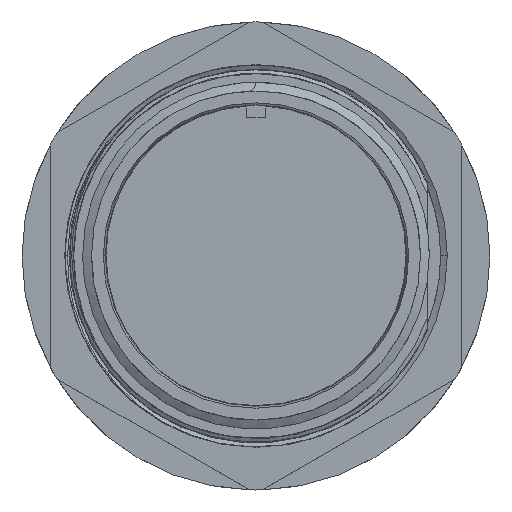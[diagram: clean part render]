
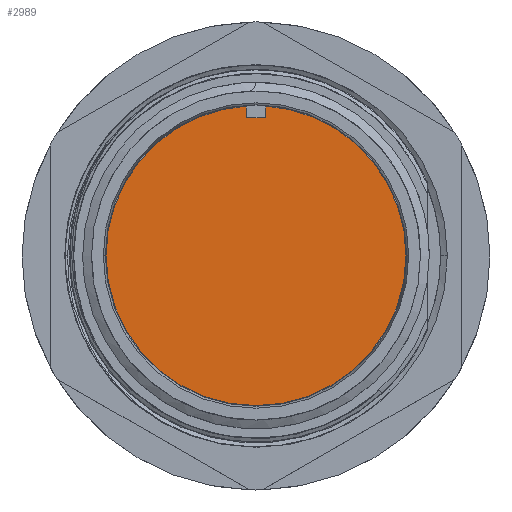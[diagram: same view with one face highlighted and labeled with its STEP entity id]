
A CAD part, top view. The second image highlights one B-rep face of the part: STEP entity #2989.
In plain terms, the highlighted planar face has unit normal (0, 0, 1).
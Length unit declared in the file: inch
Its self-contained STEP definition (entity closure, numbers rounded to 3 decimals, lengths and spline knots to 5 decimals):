
#98 = EDGE_LOOP ( 'NONE', ( #13224, #17926 ) ) ;
#771 = FACE_OUTER_BOUND ( 'NONE', #98, .T. ) ;
#1339 = DIRECTION ( 'NONE',  ( 0., 0., 1. ) ) ;
#2011 = DIRECTION ( 'NONE',  ( 1., 0., 0. ) ) ;
#2989 = ADVANCED_FACE ( 'NONE', ( #771 ), #6624, .T. ) ;
#3393 = EDGE_CURVE ( 'NONE', #17077, #13247, #9504, .T. ) ;
#3759 = DIRECTION ( 'NONE',  ( 0., 0., 1. ) ) ;
#5481 = DIRECTION ( 'NONE',  ( 1., 0., 0. ) ) ;
#6624 = PLANE ( 'NONE',  #7367 ) ;
#7180 = AXIS2_PLACEMENT_3D ( 'NONE', #16412, #3759, #5481 ) ;
#7191 = CARTESIAN_POINT ( 'NONE',  ( 0., 0., -0.56224 ) ) ;
#7367 = AXIS2_PLACEMENT_3D ( 'NONE', #7191, #1339, #17437 ) ;
#8637 = DIRECTION ( 'NONE',  ( 0., 0., 1. ) ) ;
#9504 = CIRCLE ( 'NONE', #15618, 0.5925 ) ;
#10054 = CARTESIAN_POINT ( 'NONE',  ( 0., 0., -0.56224 ) ) ;
#13224 = ORIENTED_EDGE ( 'NONE', *, *, #3393, .T. ) ;
#13247 = VERTEX_POINT ( 'NONE', #13715 ) ;
#13715 = CARTESIAN_POINT ( 'NONE',  ( -0.5925, 0., -0.56224 ) ) ;
#13763 = CARTESIAN_POINT ( 'NONE',  ( 0.5925, 0., -0.56224 ) ) ;
#15594 = EDGE_CURVE ( 'NONE', #13247, #17077, #16338, .T. ) ;
#15618 = AXIS2_PLACEMENT_3D ( 'NONE', #10054, #8637, #2011 ) ;
#16338 = CIRCLE ( 'NONE', #7180, 0.5925 ) ;
#16412 = CARTESIAN_POINT ( 'NONE',  ( 0., 0., -0.56224 ) ) ;
#17077 = VERTEX_POINT ( 'NONE', #13763 ) ;
#17437 = DIRECTION ( 'NONE',  ( 1., 0., 0. ) ) ;
#17926 = ORIENTED_EDGE ( 'NONE', *, *, #15594, .T. ) ;
